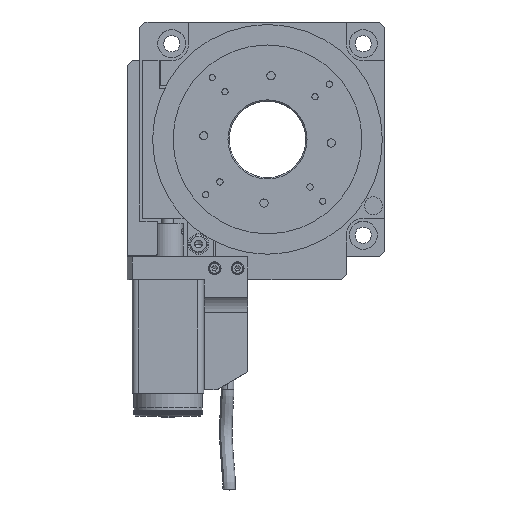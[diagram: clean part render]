
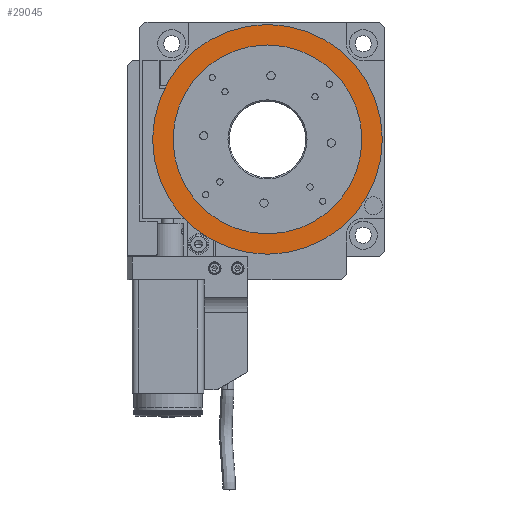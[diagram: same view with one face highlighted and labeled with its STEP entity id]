
A CAD part, top view. The second image highlights one B-rep face of the part: STEP entity #29045.
In plain terms, the highlighted planar face has unit normal (0, 0, 1).
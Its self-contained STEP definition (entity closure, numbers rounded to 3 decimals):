
#6861 = CARTESIAN_POINT ( 'NONE',  ( 50., 83., 32. ) ) ;
#6868 = DIRECTION ( 'NONE',  ( 0., -1., 0. ) ) ;
#6869 = DIRECTION ( 'NONE',  ( 0., 0., 1. ) ) ;
#6870 = CARTESIAN_POINT ( 'NONE',  ( 50., 46., 32. ) ) ;
#6871 = AXIS2_PLACEMENT_3D ( 'NONE', #6870, #6869, #6868 ) ;
#6876 = CIRCLE ( 'NONE', #6871, 37. ) ;
#6900 = CARTESIAN_POINT ( 'NONE',  ( 50., 9., 32. ) ) ;
#17463 = VERTEX_POINT ( 'NONE', #47167 ) ;
#17475 = VERTEX_POINT ( 'NONE', #47265 ) ;
#17483 = EDGE_CURVE ( 'NONE', #17475, #17463, #47240, .T. ) ;
#21519 = DIRECTION ( 'NONE',  ( 0., -1., 0. ) ) ;
#21521 = DIRECTION ( 'NONE',  ( 0., 0., 1. ) ) ;
#21522 = CARTESIAN_POINT ( 'NONE',  ( 80.562, 73.33, 32. ) ) ;
#21524 = AXIS2_PLACEMENT_3D ( 'NONE', #21522, #21521, #21519 ) ;
#21525 = PLANE ( 'NONE',  #21524 ) ;
#21528 = FACE_BOUND ( 'NONE', #29060, .T. ) ;
#21530 = FACE_OUTER_BOUND ( 'NONE', #29046, .T. ) ;
#21649 = DIRECTION ( 'NONE',  ( 0., -1., 0. ) ) ;
#21651 = DIRECTION ( 'NONE',  ( 0., 0., 1. ) ) ;
#21652 = CARTESIAN_POINT ( 'NONE',  ( 50., 46., 32. ) ) ;
#21654 = AXIS2_PLACEMENT_3D ( 'NONE', #21652, #21651, #21649 ) ;
#21656 = CIRCLE ( 'NONE', #21654, 37. ) ;
#29045 = ADVANCED_FACE ( 'NONE', ( #21530, #21528 ), #21525, .T. ) ;
#29046 = EDGE_LOOP ( 'NONE', ( #29052, #29056 ) ) ;
#29052 = ORIENTED_EDGE ( 'NONE', *, *, #17483, .T. ) ;
#29056 = ORIENTED_EDGE ( 'NONE', *, *, #33268, .T. ) ;
#29060 = EDGE_LOOP ( 'NONE', ( #29064, #29111 ) ) ;
#29064 = ORIENTED_EDGE ( 'NONE', *, *, #46045, .F. ) ;
#29111 = ORIENTED_EDGE ( 'NONE', *, *, #29113, .F. ) ;
#29113 = EDGE_CURVE ( 'NONE', #46052, #46085, #21656, .T. ) ;
#32326 = DIRECTION ( 'NONE',  ( 0., -1., 0. ) ) ;
#32328 = DIRECTION ( 'NONE',  ( 0., 0., 1. ) ) ;
#32330 = CARTESIAN_POINT ( 'NONE',  ( 50., 46., 32. ) ) ;
#32331 = AXIS2_PLACEMENT_3D ( 'NONE', #32330, #32328, #32326 ) ;
#32332 = CIRCLE ( 'NONE', #32331, 45. ) ;
#33268 = EDGE_CURVE ( 'NONE', #17463, #17475, #32332, .T. ) ;
#46045 = EDGE_CURVE ( 'NONE', #46085, #46052, #6876, .T. ) ;
#46052 = VERTEX_POINT ( 'NONE', #6861 ) ;
#46085 = VERTEX_POINT ( 'NONE', #6900 ) ;
#47167 = CARTESIAN_POINT ( 'NONE',  ( 50., 91., 32. ) ) ;
#47236 = DIRECTION ( 'NONE',  ( 0., -1., 0. ) ) ;
#47238 = DIRECTION ( 'NONE',  ( 0., 0., 1. ) ) ;
#47239 = AXIS2_PLACEMENT_3D ( 'NONE', #47250, #47238, #47236 ) ;
#47240 = CIRCLE ( 'NONE', #47239, 45. ) ;
#47250 = CARTESIAN_POINT ( 'NONE',  ( 50., 46., 32. ) ) ;
#47265 = CARTESIAN_POINT ( 'NONE',  ( 50., 1., 32. ) ) ;
